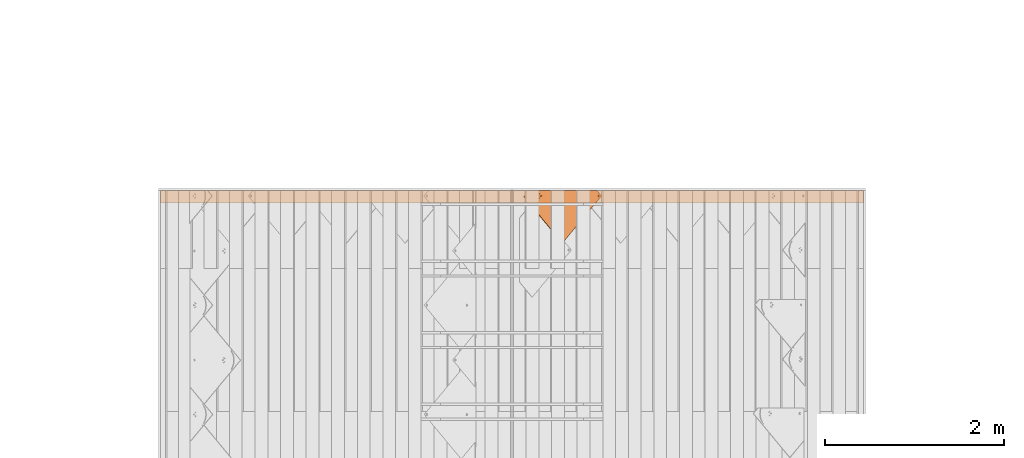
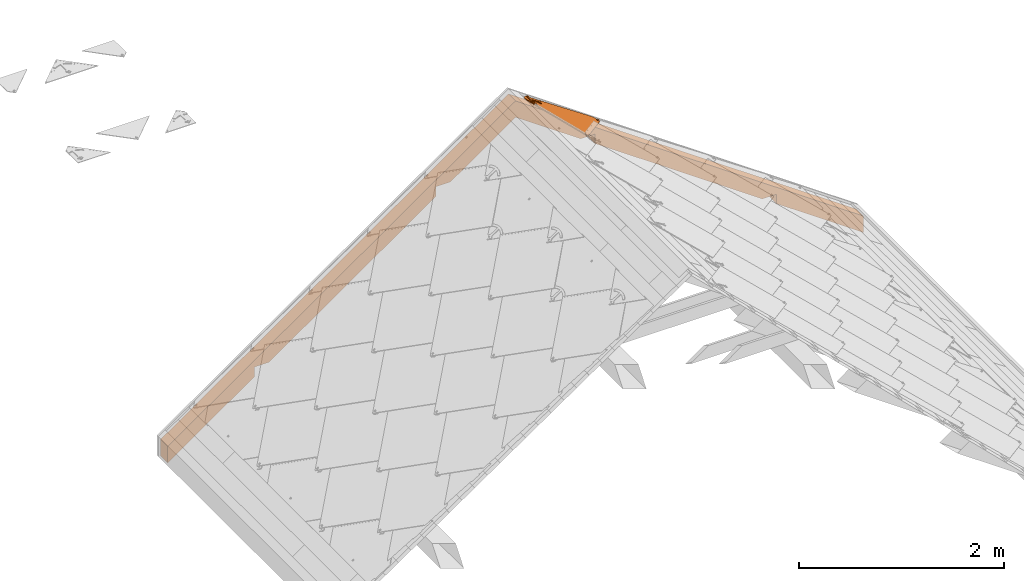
# One storey, part 86 of 133: 2 proxies, 1 element without a shape of its own.
"""IFC2X3 building model written with IfcOpenShell, lengths in millimetres."""

import ifcopenshell
import ifcopenshell.guid

model = None  # the IFC model being written
_history = None  # IfcOwnerHistory: only IFC2X3 demands one
_inside = {}  # id of a spatial element -> (the spatial element, [elements in it])
_under = {}  # id of a project, library or spatial element -> (it, [spatial elements below it])
_declared = {}  # id of a project -> (the project, [libraries it declares])
_typed = {}  # id of a type object -> (the type object, [elements of that type])
_made_of = {}  # id of a material, layer set ... -> (it, [elements and type objects made of it])


def new_model(schema):
    """Start an empty IFC model of exactly this schema.

    Asked for "IFC4X3", IfcOpenShell would pick the latest addendum, in which some entities
    have other attributes; the version numbers below select the first issue.
    IFC2X3 requires an IfcOwnerHistory on every rooted entity: one is made here for all.
    """
    global model, _history
    if schema == "IFC4X3":
        model = ifcopenshell.file(schema_version=(4, 3, 0, 0))
    else:
        model = ifcopenshell.file(schema=schema)
    _inside.clear()
    _under.clear()
    _declared.clear()
    _typed.clear()
    _made_of.clear()
    _history = None
    if model.schema == "IFC2X3":
        org = make("IfcOrganization", Name="unknown")
        user = make(
            "IfcPersonAndOrganization",
            ThePerson=make("IfcPerson", FamilyName="unknown"),
            TheOrganization=org,
        )
        app = make(
            "IfcApplication",
            ApplicationDeveloper=org,
            Version="unknown",
            ApplicationFullName="unknown",
            ApplicationIdentifier="unknown",
        )
        _history = make(
            "IfcOwnerHistory",
            OwningUser=user,
            OwningApplication=app,
            ChangeAction="ADDED",
            CreationDate=0,
        )
    return model


def make(cls, **values):
    """One entity of the class cls with the attributes given. An attribute that is None is left unset."""
    return model.create_entity(
        cls, **{name: value for name, value in values.items() if value is not None}
    )


def entity(cls, *values):
    """Any entity or typed value of the class cls, its attributes in the order of the schema. None: left unset."""
    e = model.create_entity(cls)
    for i, value in enumerate(values):
        if value is not None:
            e[i] = value
    return e


def rooted(cls, **values):
    """An entity with a GlobalId (a new one), such as an element, a storey or a relation."""
    return make(cls, GlobalId=ifcopenshell.guid.new(), OwnerHistory=_history, **values)


def si_unit(unit_type, name, prefix=None):
    """IfcSIUnit, for example si_unit("LENGTHUNIT", "METRE", prefix="MILLI")."""
    return make("IfcSIUnit", UnitType=unit_type, Prefix=prefix, Name=name)


def converted_unit(unit_type, name, factor, base, dimensions=None, offset=None):
    """IfcConversionBasedUnit, such as the inch: factor (a typed value) times the base unit."""
    return make(
        "IfcConversionBasedUnit"
        if offset is None
        else "IfcConversionBasedUnitWithOffset",
        ConversionOffset=offset,
        Dimensions=None
        if dimensions is None
        else entity("IfcDimensionalExponents", *dimensions),
        UnitType=unit_type,
        Name=name,
        ConversionFactor=make(
            "IfcMeasureWithUnit", ValueComponent=factor, UnitComponent=base
        ),
    )


def derived_unit(unit_type, elements):
    """IfcDerivedUnit: a product of units, each with its exponent."""
    return make(
        "IfcDerivedUnit",
        Elements=[
            make("IfcDerivedUnitElement", Unit=unit, Exponent=power)
            for unit, power in elements
        ],
        UnitType=unit_type,
    )


def assignment(units):
    """IfcUnitAssignment: the units of a project."""
    return None if units is None else make("IfcUnitAssignment", Units=units)


def point(xyz):
    """IfcCartesianPoint."""
    return None if xyz is None else make("IfcCartesianPoint", Coordinates=xyz)


def direction(xyz):
    """IfcDirection."""
    return None if xyz is None else make("IfcDirection", DirectionRatios=xyz)


def frame(location, z_axis=None, x_axis=None):
    """IfcAxis2Placement3D, a coordinate frame: its origin and axes. An axis left out is left unset."""
    return make(
        "IfcAxis2Placement3D",
        Location=point(location),
        Axis=direction(z_axis),
        RefDirection=direction(x_axis),
    )


def origin():
    """The frame at (0, 0, 0) with its axes left unset."""
    return frame((0.0, 0.0, 0.0))


def place(relative_to, where):
    """IfcLocalPlacement: puts the frame where relative to a parent placement (None: the world)."""
    return make(
        "IfcLocalPlacement", PlacementRelTo=relative_to, RelativePlacement=where
    )


def context(
    kind, dimensions, precision=None, world=None, true_north=None, identifier=None
):
    """IfcGeometricRepresentationContext, for example the 3D "Model" context."""
    return make(
        "IfcGeometricRepresentationContext",
        ContextIdentifier=identifier,
        ContextType=kind,
        CoordinateSpaceDimension=dimensions,
        Precision=precision,
        WorldCoordinateSystem=world,
        TrueNorth=true_north,
    )


def subcontext(parent, identifier, kind, view, scale=None):
    """IfcGeometricRepresentationSubContext, for example "Body" below "Model"."""
    return make(
        "IfcGeometricRepresentationSubContext",
        ContextIdentifier=identifier,
        ContextType=kind,
        ParentContext=parent,
        TargetScale=scale,
        TargetView=view,
    )


def project(units=None, contexts=None):
    """IfcProject with its units and contexts."""
    return rooted(
        "IfcProject",
        Name="project",
        RepresentationContexts=contexts,
        UnitsInContext=assignment(units),
    )


def spatial(cls, under=None, at=None, **own):
    """A site, building, storey or space (cls), placed at a placement, below another one or the project."""
    s = rooted(cls, ObjectPlacement=at, **own)
    if under is not None:
        _under.setdefault(under.id(), (under, []))[1].append(s)
    return s


def polyline(points):
    """IfcPolyline through the points."""
    return make("IfcPolyline", Points=[point(p) for p in points])


def outline(outer, holes=None, kind="AREA"):
    """IfcArbitraryClosedProfileDef: a profile drawn as a closed curve; with holes, ...WithVoids."""
    if holes is None:
        return make("IfcArbitraryClosedProfileDef", ProfileType=kind, OuterCurve=outer)
    return make(
        "IfcArbitraryProfileDefWithVoids",
        ProfileType=kind,
        OuterCurve=outer,
        InnerCurves=holes,
    )


def extrude(swept, where, along, depth):
    """IfcExtrudedAreaSolid: the profile swept, set in the frame where, extruded along a direction by depth."""
    return make(
        "IfcExtrudedAreaSolid",
        SweptArea=swept,
        Position=where,
        ExtrudedDirection=direction(along),
        Depth=depth,
    )


def faces_of(points, faces, orient=None, outer=None):
    """IfcFace entities. A face is a list of loops; a loop is a list of indices into points, from 0.

    orient and outer hold one flag for each loop. By default every Orientation is true, the
    first loop of a face is its IfcFaceOuterBound and the others are IfcFaceBound.
    """
    made = []
    for i, loops in enumerate(faces):
        bounds = []
        for j, loop in enumerate(loops):
            is_outer = j == 0 if outer is None else outer[i][j]
            bounds.append(
                make(
                    "IfcFaceOuterBound" if is_outer else "IfcFaceBound",
                    Bound=make("IfcPolyLoop", Polygon=[points[k] for k in loop]),
                    Orientation=True if orient is None else orient[i][j],
                )
            )
        made.append(make("IfcFace", Bounds=bounds))
    return made


def faceted_brep(points, faces, orient=None, outer=None, voids=None):
    """IfcFacetedBrep: a solid bounded by flat faces; with voids (closed shells), ...WithVoids."""
    shared = [point(p) for p in points]
    hull = make("IfcClosedShell", CfsFaces=faces_of(shared, faces, orient, outer))
    if voids is None:
        return make("IfcFacetedBrep", Outer=hull)
    return make(
        "IfcFacetedBrepWithVoids",
        Outer=hull,
        Voids=[
            make(cls, CfsFaces=faces_of(shared, fs, o, b)) for cls, fs, o, b in voids
        ],
    )


def shape(context_of_items, identifier, shape_type, items):
    """IfcShapeRepresentation: the items that make up one representation, for example the "Body"."""
    return make(
        "IfcShapeRepresentation",
        ContextOfItems=context_of_items,
        RepresentationIdentifier=identifier,
        RepresentationType=shape_type,
        Items=items,
    )


def source(mapping_origin, context_of_items, identifier, shape_type, items):
    """IfcRepresentationMap: a shape defined once, which mapped items show again and again."""
    return make(
        "IfcRepresentationMap",
        MappingOrigin=mapping_origin,
        MappedRepresentation=shape(context_of_items, identifier, shape_type, items),
    )


def transform(
    local_origin,
    x_axis=None,
    y_axis=None,
    z_axis=None,
    scale=None,
    scale2=None,
    scale3=None,
    uniform=True,
):
    """IfcCartesianTransformationOperator3D, or its non-uniform kind. x_axis, y_axis, z_axis: its Axis1, 2, 3."""
    if uniform:
        return make(
            "IfcCartesianTransformationOperator3D",
            Axis1=direction(x_axis),
            Axis2=direction(y_axis),
            LocalOrigin=point(local_origin),
            Scale=scale,
            Axis3=direction(z_axis),
        )
    return make(
        "IfcCartesianTransformationOperator3DnonUniform",
        Axis1=direction(x_axis),
        Axis2=direction(y_axis),
        LocalOrigin=point(local_origin),
        Scale=scale,
        Axis3=direction(z_axis),
        Scale2=scale2,
        Scale3=scale3,
    )


def mapped(mapping_source, mapping_target):
    """IfcMappedItem: shows the shape of a source again, moved by a transform."""
    return make(
        "IfcMappedItem", MappingSource=mapping_source, MappingTarget=mapping_target
    )


def material(Name=None, Category=None):
    """IfcMaterial."""
    return make("IfcMaterial", Name=Name, Category=Category)


def material_list(materials):
    """IfcMaterialList."""
    return make("IfcMaterialList", Materials=materials)


def made_of(thing, what):
    """Note that an element or type object is made of a material, layer set ...; save() writes the relation."""
    if what is not None:
        _made_of.setdefault(what.id(), (what, []))[1].append(thing)
    return thing


def type_object(cls, material=None, **own):
    """A type object (cls), such as IfcWallType, which elements share."""
    return made_of(rooted(cls, **own), material)


def type_shapes(of_type, sources):
    """Give a type object the sources (RepresentationMaps) that its elements show as mapped items."""
    of_type.RepresentationMaps = sources


def element(
    cls,
    number,
    at=None,
    inside=None,
    cuts=None,
    type_object=None,
    material=None,
    context=None,
    identifier="Body",
    shape_type=None,
    held_by="IfcProductDefinitionShape",
    body=None,
    shapes=None,
    **own,
):
    """One element of the class cls, such as IfcWall. Its Tag is "e" and its number.

    at: its placement. inside: the storey or other place that contains it. cuts: it is an
    opening in that element (IfcRelVoidsElement). A single representation is given by context,
    identifier, shape_type and body (its items); several are given by shapes. held_by: the class
    of the entity that holds the representations. save() writes the other relations.
    """
    e = rooted(cls, Tag="e%d" % number, ObjectPlacement=at, **own)
    if body is not None:
        shapes = [shape(context, identifier, shape_type, body)]
    if shapes is not None:
        e.Representation = make(held_by, Representations=shapes)
    if inside is not None:
        _inside.setdefault(inside.id(), (inside, []))[1].append(e)
    if cuts is not None:
        rooted(
            "IfcRelVoidsElement", RelatingBuildingElement=cuts, RelatedOpeningElement=e
        )
    if type_object is not None:
        _typed.setdefault(type_object.id(), (type_object, []))[1].append(e)
    return made_of(e, material)


def aggregate(whole, parts):
    """IfcRelAggregates: a whole, such as a stair, and the parts it consists of."""
    return rooted("IfcRelAggregates", RelatingObject=whole, RelatedObjects=parts)


def save(model, path):
    """Write the relations noted so far, then the file.

    IfcRelAggregates (storeys below a building ...), IfcRelContainedInSpatialStructure (elements
    in a storey), IfcRelDefinesByType, IfcRelAssociatesMaterial and IfcRelDeclares: one each for
    every whole, place, type object, material and project.
    """
    for whole, parts in _under.values():
        aggregate(whole, parts)
    for where, things in _inside.values():
        rooted(
            "IfcRelContainedInSpatialStructure",
            RelatedElements=things,
            RelatingStructure=where,
        )
    for kind, things in _typed.values():
        rooted("IfcRelDefinesByType", RelatedObjects=things, RelatingType=kind)
    for what, things in _made_of.values():
        rooted("IfcRelAssociatesMaterial", RelatedObjects=things, RelatingMaterial=what)
    for by, libraries in _declared.values():
        rooted("IfcRelDeclares", RelatingContext=by, RelatedDefinitions=libraries)
    model.write(path)


model = new_model("IFC2X3")

# Units and contexts
model_context = context("Model", 3, precision=0.01, world=origin(), true_north=direction((6.12303176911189e-17, 1.0)))
body_context = subcontext(model_context, "Body", "Model", "MODEL_VIEW")
ifc_project = project(units=[si_unit("LENGTHUNIT", "METRE", prefix="MILLI"), si_unit("AREAUNIT", "SQUARE_METRE"), si_unit("VOLUMEUNIT", "CUBIC_METRE"), converted_unit("PLANEANGLEUNIT", "DEGREE", entity("IfcRatioMeasure", 0.0174532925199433), si_unit("PLANEANGLEUNIT", "RADIAN"), dimensions=[0, 0, 0, 0, 0, 0, 0]), si_unit("MASSUNIT", "GRAM", prefix="KILO"), derived_unit("MASSDENSITYUNIT", [(si_unit("MASSUNIT", "GRAM", prefix="KILO"), 1), (si_unit("LENGTHUNIT", "METRE"), -3)]), si_unit("TIMEUNIT", "SECOND"), si_unit("FREQUENCYUNIT", "HERTZ"), si_unit("THERMODYNAMICTEMPERATUREUNIT", "DEGREE_CELSIUS"), derived_unit("THERMALTRANSMITTANCEUNIT", [(si_unit("MASSUNIT", "GRAM", prefix="KILO"), 1), (si_unit("THERMODYNAMICTEMPERATUREUNIT", "KELVIN"), -1), (si_unit("TIMEUNIT", "SECOND"), -3)]), derived_unit("VOLUMETRICFLOWRATEUNIT", [(si_unit("LENGTHUNIT", "METRE"), 3), (si_unit("TIMEUNIT", "SECOND"), -1)]), si_unit("ELECTRICCURRENTUNIT", "AMPERE"), si_unit("ELECTRICVOLTAGEUNIT", "VOLT"), si_unit("POWERUNIT", "WATT"), si_unit("FORCEUNIT", "NEWTON", prefix="KILO"), si_unit("ILLUMINANCEUNIT", "LUX"), si_unit("LUMINOUSFLUXUNIT", "LUMEN"), si_unit("LUMINOUSINTENSITYUNIT", "CANDELA"), derived_unit("USERDEFINED", [(si_unit("MASSUNIT", "GRAM", prefix="KILO"), -1), (si_unit("LENGTHUNIT", "METRE"), -2), (si_unit("TIMEUNIT", "SECOND"), 3), (si_unit("LUMINOUSFLUXUNIT", "LUMEN"), 1)]), derived_unit("LINEARVELOCITYUNIT", [(si_unit("LENGTHUNIT", "METRE"), 1), (si_unit("TIMEUNIT", "SECOND"), -1)]), si_unit("PRESSUREUNIT", "PASCAL"), derived_unit("USERDEFINED", [(si_unit("LENGTHUNIT", "METRE"), -2), (si_unit("MASSUNIT", "GRAM", prefix="KILO"), 1), (si_unit("TIMEUNIT", "SECOND"), -2)])], contexts=[model_context])

# Site, building, storey
site_placement = place(None, origin())
site = spatial("IfcSite", under=ifc_project, at=site_placement, Name="Default", CompositionType="ELEMENT")
building_placement = place(site_placement, origin())
building = spatial("IfcBuilding", under=site, at=building_placement, CompositionType="ELEMENT")
storey_placement = place(building_placement, origin())
storey = spatial("IfcBuildingStorey", under=building, at=storey_placement, Name="Level 1", CompositionType="ELEMENT", Elevation=0.0)

# Assembly, proxy
assembly_placement = place(storey_placement, origin())
assembly = element("IfcElementAssembly", 1, at=assembly_placement, inside=storey, Name="Structural Framing Assembly:Roof Construction Assembly", ObjectType="Structural Framing Assembly:Roof Construction Assembly", AssemblyPlace="NOTDEFINED", PredefinedType="USERDEFINED")
ifc_material_1 = material(Name="Wood - Generic - Wood For Showcase")
building_element_proxy_type_1 = type_object("IfcBuildingElementProxyType", Name="Structural Framing 1", PredefinedType="NOTDEFINED", material=ifc_material_1)
shared_shape_1 = source(origin(), body_context, "Body", "SweptSolid", [
    extrude(outline(polyline([(-929.245683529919, -1327.10037070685), (3863.25950492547, -1327.10037070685), (3975.29271103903, -1167.10037070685), (2778.93361405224, -1167.10037070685), (2713.54351952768, -1260.48710386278), (2580.17344271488, -1167.10037070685), (278.93361405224, -1167.10037070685), (213.543519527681, -1260.48710386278), (80.1734427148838, -1167.10037070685), (-817.212477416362, -1167.10037070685), (-1124.13653843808, -323.833443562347), (-1257.50661525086, -230.446710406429), (-1192.11652072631, -137.059977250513), (-1979.18689675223, 2025.39810840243), (-2112.55697356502, 2118.78484155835), (-2047.16687904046, 2212.17157471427), (-2456.34578886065, 3336.38138996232), (-2568.37899497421, 3176.38138996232), (-929.245683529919, -1327.10037070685)])), frame((1206.77890726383, 3785.55080214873, 1179.90959070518), z_axis=(0.0, 1.0, 0.0), x_axis=(0.819152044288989, 0.0, -0.573576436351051)), (0.0, 0.0, 1.0), 140.0),
])
type_shapes(building_element_proxy_type_1, [shared_shape_1])
proxy_1_placement = place(assembly_placement, origin())
proxy_1 = element("IfcBuildingElementProxy", 2, at=proxy_1_placement, type_object=building_element_proxy_type_1, material=ifc_material_1, Name="Structural Framing 1:Structural Framing 1", ObjectType="Structural Framing 1:Structural Framing 1", context=body_context, shape_type="MappedRepresentation", body=[
    mapped(shared_shape_1, transform((0.0, 0.0, 0.0), scale=1.0)),
])
aggregate(assembly, [proxy_1])

# Proxy
ifc_material_2 = material(Name="Rubber - Sunstyle - Black")
ifc_material_3 = material(Name="Glass - Sunstyle - Tainted Black")
ifc_material_list_1 = material_list([ifc_material_2, ifc_material_3])
ifc_material_list_2 = material_list([ifc_material_2, ifc_material_3])
building_element_proxy_type_2 = type_object("IfcBuildingElementProxyType", Name="Shingle Right - Black", PredefinedType="NOTDEFINED", material=ifc_material_list_2)
shared_shape_2 = source(origin(), body_context, "Body", "Brep", [
    faceted_brep([(526.70519509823, 41.3127833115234, 3.87722628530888), (520.930992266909, 37.9795131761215, 3.9330502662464), (520.930992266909, 38.34782226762, 25.9249196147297), (526.70519509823, 41.6810924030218, 25.8690956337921), (520.930992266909, 31.3129729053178, 4.0446982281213), (520.930992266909, 31.6812819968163, 26.0365675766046), (526.70519509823, 27.979702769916, 4.1005222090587), (526.70519509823, 28.3480118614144, 26.092391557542), (532.47939792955, 31.3129729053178, 4.04469822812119), (532.47939792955, 31.6812819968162, 26.0365675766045), (532.47939792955, 37.9795131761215, 3.93305026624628), (532.47939792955, 38.3478222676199, 25.9249196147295), (518.101490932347, 26.4120542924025, 26.1248140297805), (526.70519509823, 22.8487830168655, 26.1844899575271), (514.537719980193, 35.0145521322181, 25.9807435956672), (518.101490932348, 43.6170499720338, 25.8366731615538), (526.70519509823, 47.1803212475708, 25.776997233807), (535.308899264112, 43.6170499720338, 25.8366731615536), (538.872670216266, 35.0145521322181, 25.9807435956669), (535.308899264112, 26.4120542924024, 26.1248140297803), (515.380950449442, 37.3096292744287, 28.2935855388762), (516.94872054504, 35.0855670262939, 30.2210682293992), (526.70519509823, 42.3986422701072, 30.8537686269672), (526.70519509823, 43.6391399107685, 30.2734219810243), (526.70519509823, 45.7966907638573, 29.2640469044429), (526.70519509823, 23.4048270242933, 27.4595479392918), (526.70519509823, 24.3484036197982, 29.6232523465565), (526.70519509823, 27.7977793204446, 31.0982967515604), (526.70519509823, 46.6672851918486, 27.0699596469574), (520.381949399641, 31.4479950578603, 31.0371647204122), (520.381949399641, 38.7484265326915, 30.9149006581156), (538.029439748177, 32.7982090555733, 28.3691406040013), (536.554075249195, 34.0111605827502, 30.1422000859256), (533.028440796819, 38.7484265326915, 30.9149006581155), (533.028440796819, 31.4479950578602, 31.0371647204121), (520.381949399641, 31.5820235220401, 39.0400528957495), (526.70519509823, 27.9318077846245, 39.1011849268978), (526.70519509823, 35.2322392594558, 38.9789208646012), (520.381949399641, 38.8824549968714, 38.9177888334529), (533.028440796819, 31.5820235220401, 39.0400528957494), (533.028440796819, 38.8824549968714, 38.9177888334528), (526.70519509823, 42.532670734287, 38.8566568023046), (526.70519509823, 34.6462430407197, 3.98887424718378)], [[[0, 1, 2, 3]], [[1, 4, 5, 2]], [[4, 6, 7, 5]], [[6, 8, 9, 7]], [[8, 10, 11, 9]], [[10, 0, 3, 11]], [[12, 7, 13]], [[7, 12, 5]], [[14, 5, 12]], [[5, 14, 2]], [[15, 2, 14]], [[3, 2, 15]], [[15, 16, 3]], [[16, 17, 3]], [[11, 3, 17]], [[11, 17, 18]], [[9, 11, 18]], [[18, 19, 9]], [[7, 9, 19]], [[19, 13, 7]], [[20, 14, 12]], [[21, 22, 23, 24]], [[24, 20, 21]], [[25, 20, 12]], [[26, 27, 21]], [[15, 14, 20]], [[12, 13, 25]], [[20, 28, 15]], [[28, 20, 24]], [[21, 27, 29]], [[21, 29, 30]], [[26, 21, 20]], [[20, 25, 26]], [[15, 28, 16]], [[21, 30, 22]], [[31, 18, 17]], [[28, 31, 17]], [[32, 27, 26]], [[26, 31, 32]], [[26, 25, 31]], [[25, 19, 31]], [[17, 16, 28]], [[31, 19, 18]], [[24, 31, 28]], [[33, 34, 32]], [[23, 22, 33]], [[24, 32, 31]], [[27, 32, 34]], [[32, 23, 33]], [[19, 25, 13]], [[32, 24, 23]], [[35, 36, 37]], [[37, 38, 35]], [[36, 39, 37]], [[40, 37, 39]], [[37, 40, 41]], [[37, 41, 38]], [[42, 6, 4]], [[4, 1, 42]], [[1, 0, 42]], [[42, 8, 6]], [[0, 10, 42]], [[8, 42, 10]], [[22, 30, 38, 41]], [[30, 29, 35, 38]], [[29, 27, 36, 35]], [[27, 34, 39, 36]], [[34, 33, 40, 39]], [[33, 22, 41, 40]]]),
    faceted_brep([(526.70519509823, 811.19100538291, 21.4210230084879), (526.70519509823, 815.690374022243, 21.3456697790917), (518.101490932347, 814.754276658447, 21.3613470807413), (535.308899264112, 814.754276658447, 21.3613470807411), (533.345423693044, 819.523574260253, 21.2814732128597), (538.872670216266, 823.356774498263, 21.2172766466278), (533.345423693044, 827.189974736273, 21.1530800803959), (535.308899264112, 831.959272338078, 21.0732062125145), (526.70519509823, 831.023174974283, 21.0888835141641), (526.70519509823, 835.522543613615, 21.0135302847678), (518.101490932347, 831.959272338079, 21.0732062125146), (520.064966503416, 827.189974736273, 21.1530800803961), (514.537719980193, 823.356774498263, 21.217276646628), (520.064966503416, 819.523574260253, 21.2814732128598), (520.064966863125, 826.922051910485, 5.15532344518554), (526.70519509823, 830.755251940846, 5.09112688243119), (520.064966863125, 819.255651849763, 5.2837165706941), (526.70519509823, 815.422451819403, 5.34791313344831), (533.345423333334, 819.255651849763, 5.28371657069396), (533.345423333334, 826.922051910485, 5.1553234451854), (518.101490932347, 814.486354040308, 5.36359044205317), (526.70519509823, 810.923082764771, 5.4232663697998), (514.537719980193, 823.088851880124, 5.21952000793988), (518.101490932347, 831.69134971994, 5.07544957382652), (526.70519509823, 835.254620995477, 5.01577364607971), (535.308899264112, 831.69134971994, 5.07544957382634), (538.872670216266, 823.088851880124, 5.21952000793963), (535.308899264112, 814.486354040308, 5.36359044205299)], [[[0, 1, 2]], [[1, 0, 3]], [[3, 4, 1]], [[4, 3, 5]], [[6, 4, 5]], [[5, 7, 6]], [[7, 8, 6]], [[8, 7, 9]], [[8, 9, 10]], [[10, 11, 8]], [[12, 11, 10]], [[2, 13, 12]], [[12, 13, 11]], [[13, 2, 1]], [[8, 11, 14, 15]], [[11, 13, 16, 14]], [[13, 1, 17, 16]], [[1, 4, 18, 17]], [[4, 6, 19, 18]], [[6, 8, 15, 19]], [[20, 17, 21]], [[17, 20, 16]], [[22, 16, 20]], [[14, 16, 22]], [[23, 14, 22]], [[15, 14, 23]], [[23, 24, 15]], [[24, 25, 15]], [[19, 15, 25]], [[19, 25, 26]], [[26, 18, 19]], [[26, 27, 18]], [[17, 18, 27]], [[27, 21, 17]], [[24, 23, 10, 9]], [[10, 23, 22, 12]], [[20, 21, 0, 2]], [[20, 2, 12, 22]], [[21, 27, 3, 0]], [[3, 27, 26, 5]], [[25, 24, 9, 7]], [[25, 7, 5, 26]]]),
    faceted_brep([(578.30986553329, 967.15023469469, 8.79467739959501), (586.794551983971, 975.634921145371, 8.65258001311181), (586.794551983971, 975.660038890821, 10.1523696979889), (578.30986553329, 967.17535244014, 10.294467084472), (517.891471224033, 1027.55168765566, 7.7831033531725), (8.48468645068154, 518.287740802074, 16.3120073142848), (0.0, 526.772427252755, 16.1699099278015), (517.891471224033, 1044.51868144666, 7.49894842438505), (517.891471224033, 1044.54379919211, 8.99873810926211), (0.0, 526.797544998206, 17.6696996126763), (8.4846864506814, 518.312858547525, 17.8117969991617), (517.891471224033, 1027.57680540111, 9.28289303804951)], [[[0, 1, 2, 3]], [[1, 0, 4, 5, 6, 7]], [[2, 1, 7, 8]], [[3, 2, 8, 9, 10, 11]], [[0, 3, 11, 4]], [[5, 10, 9, 6]], [[8, 7, 6, 9]], [[4, 11, 10, 5]]]),
    faceted_brep([(586.794551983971, 975.634921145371, 8.65258001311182), (517.891471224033, 1044.51868144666, 7.49894842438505), (523.812678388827, 834.561085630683, 11.0152157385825), (526.918506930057, 834.969918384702, 11.0083688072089), (530.024335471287, 834.561085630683, 11.0152157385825), (532.918506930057, 833.362448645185, 11.0352899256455), (535.403788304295, 831.455692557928, 11.0672233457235), (537.31081177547, 828.970759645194, 11.1088397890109), (538.509616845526, 826.076993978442, 11.1573031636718), (538.918506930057, 822.971600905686, 11.2093107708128), (538.509616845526, 819.86620783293, 11.2613183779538), (586.79455198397, 60.1087646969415, 23.9853651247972), (520.918506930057, 833.362448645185, 11.0352899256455), (518.433225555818, 831.455692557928, 11.0672233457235), (516.526202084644, 828.970759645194, 11.1088397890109), (515.327397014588, 826.076993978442, 11.1573031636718), (0.0, 526.772427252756, 16.1699099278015), (514.918506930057, 822.971600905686, 11.2093107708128), (515.327397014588, 819.86620783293, 11.2613183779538), (516.526202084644, 816.972442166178, 11.3097817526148), (518.433225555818, 814.487509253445, 11.3513981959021), (520.918506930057, 812.580753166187, 11.3833316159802), (523.812678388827, 811.382116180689, 11.4034058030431), (524.667140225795, 42.642731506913, 24.2778777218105), (522.737692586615, 41.8436401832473, 24.2912605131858), (521.080838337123, 40.572469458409, 24.3125494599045), (519.80948935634, 38.9158475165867, 24.3402937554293), (519.010285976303, 36.9866704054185, 24.37260267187), (518.737692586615, 34.9164083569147, 24.407274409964), (519.010285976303, 32.8461463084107, 24.441946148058), (526.794551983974, 0.125588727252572, 24.989934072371), (519.80948935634, 30.9169691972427, 24.4742550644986), (533.665895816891, 30.9169691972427, 24.4742550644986), (532.394546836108, 29.2603472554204, 24.5019993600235), (530.737692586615, 27.9891765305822, 24.5232883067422), (528.808244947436, 27.1900852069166, 24.5366710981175), (526.737692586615, 26.9175300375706, 24.5412357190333), (524.667140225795, 27.1900852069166, 24.5366710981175), (522.737692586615, 27.9891765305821, 24.5232883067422), (521.080838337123, 29.2603472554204, 24.5019993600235), (526.737692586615, 42.9152866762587, 24.2733131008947), (528.808244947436, 42.6427315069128, 24.2778777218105), (530.737692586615, 41.8436401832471, 24.2912605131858), (532.394546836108, 40.572469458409, 24.3125494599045), (533.665895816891, 38.9158475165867, 24.3402937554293), (534.465099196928, 36.9866704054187, 24.37260267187), (534.737692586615, 34.9164083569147, 24.407274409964), (534.465099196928, 32.8461463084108, 24.441946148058), (526.918506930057, 810.97328342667, 11.4102527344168), (537.31081177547, 816.972442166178, 11.3097817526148), (535.403788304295, 814.487509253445, 11.3513981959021), (532.918506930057, 812.580753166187, 11.3833316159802), (530.024335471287, 811.382116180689, 11.4034058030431), (0.0, 526.646838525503, 8.67096150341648), (519.80948935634, 38.790258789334, 16.8413453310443), (519.010285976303, 36.8610816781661, 16.8736542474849), (521.080838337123, 40.4468807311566, 16.8136010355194), (518.737692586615, 34.7908196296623, 16.9083259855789), (519.010285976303, 32.7205575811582, 16.9429977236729), (526.794551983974, 0.0, 17.4909856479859), (522.737692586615, 41.7180514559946, 16.7923120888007), (524.667140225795, 42.5171427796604, 16.7789292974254), (523.812678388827, 811.256527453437, 3.90445737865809), (520.918506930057, 812.455164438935, 3.88438319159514), (518.433225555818, 814.361920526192, 3.85244977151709), (516.526202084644, 816.846853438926, 3.81083332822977), (515.327397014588, 819.740619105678, 3.76236995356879), (514.918506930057, 822.846012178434, 3.71036234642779), (515.327397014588, 825.95140525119, 3.65835473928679), (517.891471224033, 1044.39309271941, 0.0), (516.526202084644, 828.845170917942, 3.60989136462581), (518.433225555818, 831.330103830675, 3.56827492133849), (520.918506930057, 833.236859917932, 3.53634150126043), (523.812678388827, 834.435496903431, 3.51626731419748), (586.794551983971, 975.509332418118, 1.15363158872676), (526.918506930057, 834.84432965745, 3.50942038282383), (530.024335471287, 834.435496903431, 3.51626731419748), (532.918506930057, 833.236859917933, 3.53634150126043), (535.403788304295, 831.330103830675, 3.56827492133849), (537.31081177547, 828.845170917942, 3.60989136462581), (538.509616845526, 825.95140525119, 3.65835473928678), (538.918506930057, 822.846012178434, 3.71036234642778), (538.509616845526, 819.740619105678, 3.76236995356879), (586.79455198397, 59.983175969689, 16.4864167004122), (526.737692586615, 42.7896979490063, 16.7743646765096), (528.808244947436, 42.5171427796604, 16.7789292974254), (530.737692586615, 41.7180514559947, 16.7923120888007), (532.394546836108, 40.4468807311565, 16.8136010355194), (533.665895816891, 30.7913804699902, 16.9753066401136), (534.465099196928, 32.7205575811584, 16.9429977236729), (534.737692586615, 34.7908196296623, 16.9083259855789), (534.465099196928, 36.8610816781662, 16.8736542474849), (533.665895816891, 38.7902587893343, 16.8413453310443), (526.918506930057, 810.847694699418, 3.91130431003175), (530.024335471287, 811.256527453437, 3.90445737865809), (532.918506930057, 812.455164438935, 3.88438319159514), (535.403788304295, 814.361920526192, 3.85244977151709), (537.31081177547, 816.846853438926, 3.81083332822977), (519.80948935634, 30.7913804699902, 16.9753066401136), (521.080838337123, 29.134758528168, 17.0030509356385), (522.737692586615, 27.8635878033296, 17.0243398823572), (524.667140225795, 27.0644964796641, 17.0377226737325), (526.737692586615, 26.7919413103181, 17.0422872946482), (528.808244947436, 27.0644964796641, 17.0377226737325), (530.737692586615, 27.8635878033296, 17.0243398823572), (532.394546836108, 29.1347585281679, 17.0030509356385)], [[[0, 1, 2]], [[0, 2, 3]], [[3, 4, 0]], [[4, 5, 0]], [[0, 5, 6]], [[6, 7, 0]], [[7, 8, 0]], [[8, 9, 0]], [[9, 10, 0]], [[0, 10, 11]], [[2, 1, 12]], [[13, 12, 1]], [[14, 13, 1]], [[14, 1, 15]], [[15, 1, 16]], [[16, 17, 15]], [[17, 16, 18]], [[19, 18, 16]], [[19, 16, 20]], [[21, 20, 16]], [[22, 21, 16]], [[23, 22, 16]], [[24, 23, 16]], [[16, 25, 24]], [[25, 16, 26]], [[26, 16, 27]], [[28, 27, 16]], [[28, 16, 29]], [[29, 16, 30]], [[30, 31, 29]], [[11, 32, 30]], [[30, 32, 33]], [[34, 30, 33]], [[34, 35, 30]], [[36, 30, 35]], [[30, 36, 37]], [[37, 38, 30]], [[38, 39, 30]], [[39, 31, 30]], [[23, 11, 22]], [[11, 23, 40]], [[11, 40, 41]], [[11, 41, 42]], [[42, 43, 11]], [[44, 11, 43]], [[44, 45, 11]], [[45, 46, 11]], [[47, 11, 46]], [[11, 47, 32]], [[22, 11, 48]], [[10, 49, 11]], [[49, 50, 11]], [[50, 51, 11]], [[51, 52, 11]], [[52, 48, 11]], [[53, 54, 55]], [[54, 53, 56]], [[53, 55, 57]], [[57, 58, 53]], [[53, 58, 59]], [[60, 56, 53]], [[61, 60, 53]], [[61, 53, 62]], [[62, 53, 63]], [[53, 64, 63]], [[64, 53, 65]], [[65, 53, 66]], [[66, 53, 67]], [[67, 53, 68]], [[53, 69, 68]], [[70, 68, 69]], [[71, 70, 69]], [[69, 72, 71]], [[73, 72, 69]], [[73, 69, 74]], [[75, 73, 74]], [[75, 74, 76]], [[77, 76, 74]], [[74, 78, 77]], [[79, 78, 74]], [[80, 79, 74]], [[80, 74, 81]], [[81, 74, 82]], [[82, 74, 83]], [[84, 61, 83]], [[83, 85, 84]], [[86, 85, 83]], [[83, 87, 86]], [[59, 88, 83]], [[83, 88, 89]], [[90, 83, 89]], [[90, 91, 83]], [[91, 92, 83]], [[87, 83, 92]], [[62, 83, 61]], [[93, 83, 62]], [[83, 93, 94]], [[94, 95, 83]], [[83, 95, 96]], [[96, 97, 83]], [[97, 82, 83]], [[59, 58, 98]], [[99, 59, 98]], [[99, 100, 59]], [[100, 101, 59]], [[102, 59, 101]], [[59, 102, 103]], [[59, 103, 104]], [[104, 105, 59]], [[105, 88, 59]], [[16, 1, 69, 53]], [[30, 16, 53, 59]], [[11, 30, 59, 83]], [[1, 0, 74, 69]], [[28, 57, 55, 27]], [[27, 55, 54, 26]], [[24, 25, 56, 60]], [[56, 25, 26, 54]], [[23, 24, 60, 61]], [[23, 61, 84, 40]], [[40, 84, 85, 41]], [[41, 85, 86, 42]], [[44, 43, 87, 92]], [[87, 43, 42, 86]], [[45, 44, 92, 91]], [[45, 91, 90, 46]], [[46, 90, 89, 47]], [[47, 89, 88, 32]], [[34, 33, 105, 104]], [[105, 33, 32, 88]], [[35, 34, 104, 103]], [[35, 103, 102, 36]], [[36, 102, 101, 37]], [[37, 101, 100, 38]], [[31, 39, 99, 98]], [[39, 38, 100, 99]], [[58, 29, 31, 98]], [[29, 58, 57, 28]], [[17, 67, 68, 15]], [[15, 68, 70, 14]], [[12, 13, 71, 72]], [[71, 13, 14, 70]], [[2, 12, 72, 73]], [[2, 73, 75, 3]], [[3, 75, 76, 4]], [[4, 76, 77, 5]], [[7, 6, 78, 79]], [[78, 6, 5, 77]], [[8, 7, 79, 80]], [[8, 80, 81, 9]], [[9, 81, 82, 10]], [[10, 82, 97, 49]], [[51, 50, 96, 95]], [[96, 50, 49, 97]], [[52, 51, 95, 94]], [[52, 94, 93, 48]], [[48, 93, 62, 22]], [[22, 62, 63, 21]], [[19, 20, 64, 65]], [[64, 20, 21, 63]], [[18, 19, 65, 66]], [[18, 66, 67, 17]], [[0, 11, 83, 74]]]),
    faceted_brep([(503.195324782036, 841.557074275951, 20.8994526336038), (517.914693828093, 832.008099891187, 21.0593741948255), (507.695869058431, 846.190079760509, 20.8218613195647), (516.007670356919, 829.523166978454, 21.1009906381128), (499.815755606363, 836.052923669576, 20.9916334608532), (514.808865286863, 826.629401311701, 21.1494540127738), (497.720422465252, 829.943523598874, 21.0939507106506), (514.399975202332, 823.524008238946, 21.2014616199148), (497.010547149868, 823.524008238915, 21.2014616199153), (514.808865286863, 820.41861516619, 21.2534692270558), (516.007670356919, 817.524849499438, 21.3019326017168), (517.914693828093, 815.039916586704, 21.3435490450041), (526.399975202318, 794.138700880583, 21.6935924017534), (520.399975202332, 813.133160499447, 21.3754824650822), (523.294146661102, 811.934523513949, 21.3955566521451), (526.399975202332, 811.52569075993, 21.4024035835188), (529.505803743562, 811.934523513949, 21.3955566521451), (532.399975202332, 813.133160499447, 21.3754824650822), (534.885256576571, 815.039916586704, 21.3435490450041), (555.789403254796, 823.524008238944, 21.2014616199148), (536.792280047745, 817.524849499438, 21.3019326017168), (537.991085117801, 820.41861516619, 21.2534692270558), (538.399975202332, 823.524008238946, 21.2014616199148), (555.079527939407, 829.943523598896, 21.0939507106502), (537.991085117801, 826.629401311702, 21.1494540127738), (552.984194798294, 836.052923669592, 20.9916334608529), (536.792280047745, 829.523166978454, 21.1009906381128), (549.604625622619, 841.557074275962, 20.8994526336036), (534.88525657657, 832.008099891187, 21.0593741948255), (545.104081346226, 846.190079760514, 20.8218613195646), (532.399975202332, 833.914855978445, 21.0274407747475), (539.69997520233, 849.728127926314, 20.7626078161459), (529.505803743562, 835.113492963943, 21.0073665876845), (526.399975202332, 835.522325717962, 21.0005196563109), (513.09997520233, 849.728127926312, 20.762607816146), (513.099975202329, 947.789128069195, 19.1203300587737), (539.699975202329, 948.373752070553, 19.1105390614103), (522.252457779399, 973.425526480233, 18.6909841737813), (556.520926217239, 971.308509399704, 18.7264389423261), (565.239246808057, 944.126992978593, 19.1816617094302), (589.568348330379, 961.999667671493, 18.8823388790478), (589.568348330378, 935.274464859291, 19.3299195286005), (488.310294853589, 968.25512753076, 18.7775754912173), (488.729131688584, 942.717602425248, 19.2052654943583), (456.227055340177, 956.030775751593, 18.9823029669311), (465.633151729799, 933.432284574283, 19.3607714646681), (444.534595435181, 920.223666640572, 19.5819829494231), (427.451419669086, 937.304447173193, 19.2959223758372), (520.399975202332, 833.914855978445, 21.0274407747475), (523.294146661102, 835.113492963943, 21.0073665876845), (526.399975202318, 793.971249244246, 11.6949945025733), (526.399975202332, 811.358239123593, 11.4038056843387), (529.505803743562, 811.767071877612, 11.396958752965), (523.294146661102, 811.767071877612, 11.396958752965), (532.399975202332, 812.96570886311, 11.3768845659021), (534.885256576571, 814.872464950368, 11.344951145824), (555.789403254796, 823.356556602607, 11.2028637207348), (520.399975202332, 812.96570886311, 11.3768845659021), (517.914693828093, 814.872464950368, 11.344951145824), (497.010547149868, 823.356556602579, 11.2028637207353), (516.007670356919, 817.357397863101, 11.3033347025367), (514.808865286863, 820.251163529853, 11.2548713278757), (514.399975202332, 823.356556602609, 11.2028637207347), (497.720422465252, 829.776071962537, 11.0953528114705), (514.808865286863, 826.461949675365, 11.1508561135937), (499.815755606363, 835.885472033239, 10.9930355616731), (516.007670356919, 829.355715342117, 11.1023927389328), (503.195324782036, 841.389622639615, 10.9008547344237), (517.914693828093, 831.84064825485, 11.0607762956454), (507.695869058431, 846.022628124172, 10.8232634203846), (520.399975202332, 833.747404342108, 11.0288428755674), (513.09997520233, 849.560676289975, 10.7640099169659), (523.294146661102, 834.946041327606, 11.0087686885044), (526.399975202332, 835.354874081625, 11.0019217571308), (539.69997520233, 849.560676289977, 10.7640099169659), (513.099975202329, 947.621676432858, 9.12173215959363), (539.69997520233, 948.206300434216, 9.11194116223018), (522.252457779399, 973.258074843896, 8.69238627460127), (488.310294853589, 968.087675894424, 8.77897759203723), (488.729131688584, 942.550150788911, 9.20666759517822), (456.227055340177, 955.863324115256, 8.98370506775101), (465.633151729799, 933.264832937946, 9.36217356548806), (444.533467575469, 920.055518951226, 9.58339670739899), (428.044288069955, 936.544210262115, 9.30725215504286), (421.793762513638, 931.184466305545, 9.39701453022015), (415.826529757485, 925.515365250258, 9.49195786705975), (418.207622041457, 893.733364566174, 10.0242272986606), (401.122816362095, 910.815774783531, 9.73813943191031), (427.451419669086, 937.136995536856, 9.29732447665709), (556.520926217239, 971.141057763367, 8.727841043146), (565.239246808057, 943.959541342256, 9.18306381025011), (589.568348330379, 961.832216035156, 8.88374097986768), (589.568348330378, 935.107013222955, 9.33132162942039), (529.505803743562, 834.946041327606, 11.0087686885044), (532.399975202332, 833.747404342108, 11.0288428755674), (545.104081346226, 846.022628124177, 10.8232634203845), (534.88525657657, 831.84064825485, 11.0607762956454), (549.604625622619, 841.389622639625, 10.9008547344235), (536.792280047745, 829.355715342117, 11.1023927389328), (552.984194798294, 835.885472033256, 10.9930355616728), (537.991085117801, 826.461949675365, 11.1508561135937), (555.079527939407, 829.77607196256, 11.0953528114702), (538.399975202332, 823.356556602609, 11.2028637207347), (537.991085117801, 820.251163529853, 11.2548713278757), (536.792280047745, 817.357397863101, 11.3033347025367), (415.826529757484, 925.557228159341, 11.9916073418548), (401.122816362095, 910.857637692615, 12.2377889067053), (418.207622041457, 893.775227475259, 12.5238767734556), (444.534595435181, 920.09807791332, 12.083034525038), (428.042008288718, 936.584216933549, 11.8069327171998), (421.793762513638, 931.226329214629, 11.8966640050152)], [[[0, 1, 2]], [[3, 1, 0]], [[4, 3, 0]], [[5, 3, 4]], [[4, 6, 5]], [[6, 7, 5]], [[7, 6, 8]], [[9, 7, 8]], [[10, 9, 8]], [[10, 8, 11]], [[8, 12, 11]], [[13, 11, 12]], [[13, 12, 14]], [[12, 15, 14]], [[15, 12, 16]], [[16, 12, 17]], [[18, 17, 12]], [[18, 12, 19]], [[19, 20, 18]], [[21, 20, 19]], [[22, 21, 19]], [[19, 23, 22]], [[24, 22, 23]], [[23, 25, 24]], [[25, 26, 24]], [[26, 25, 27]], [[28, 26, 27]], [[27, 29, 28]], [[30, 28, 29]], [[29, 31, 30]], [[30, 31, 32]], [[32, 31, 33]], [[31, 34, 33]], [[35, 34, 31]], [[35, 31, 36]], [[36, 37, 35]], [[36, 38, 37]], [[39, 38, 36]], [[38, 39, 40]], [[41, 40, 39]], [[37, 42, 35]], [[35, 42, 43]], [[43, 42, 44]], [[44, 45, 43]], [[44, 46, 45]], [[46, 44, 47]], [[48, 34, 2]], [[48, 49, 34]], [[34, 49, 33]], [[48, 2, 1]], [[50, 51, 52]], [[51, 50, 53]], [[50, 52, 54]], [[54, 55, 50]], [[50, 55, 56]], [[57, 53, 50]], [[58, 57, 50]], [[58, 50, 59]], [[59, 60, 58]], [[60, 59, 61]], [[61, 59, 62]], [[63, 62, 59]], [[64, 62, 63]], [[63, 65, 64]], [[64, 65, 66]], [[65, 67, 66]], [[68, 66, 67]], [[69, 68, 67]], [[69, 70, 68]], [[70, 69, 71]], [[71, 72, 70]], [[71, 73, 72]], [[74, 73, 71]], [[71, 75, 74]], [[75, 76, 74]], [[76, 75, 77]], [[77, 75, 78]], [[79, 78, 75]], [[80, 78, 79]], [[79, 81, 80]], [[81, 82, 80]], [[82, 83, 80]], [[84, 83, 82]], [[84, 82, 85]], [[82, 86, 85]], [[86, 87, 85]], [[83, 88, 80]], [[76, 77, 89]], [[89, 90, 76]], [[90, 89, 91]], [[91, 92, 90]], [[93, 73, 74]], [[74, 94, 93]], [[94, 74, 95]], [[95, 96, 94]], [[95, 97, 96]], [[96, 97, 98]], [[99, 98, 97]], [[99, 100, 98]], [[101, 100, 99]], [[102, 100, 101]], [[56, 102, 101]], [[103, 102, 56]], [[56, 55, 104]], [[103, 56, 104]], [[34, 35, 75, 71]], [[2, 34, 71, 69]], [[0, 2, 69, 67]], [[67, 65, 4, 0]], [[6, 4, 65, 63]], [[8, 6, 63, 59]], [[12, 8, 59, 50]], [[19, 12, 50, 56]], [[23, 19, 56, 101]], [[25, 23, 101, 99]], [[99, 97, 27, 25]], [[29, 27, 97, 95]], [[31, 29, 95, 74]], [[36, 31, 74, 76]], [[38, 40, 91, 89]], [[37, 38, 89, 77]], [[77, 78, 42, 37]], [[44, 42, 78, 80]], [[47, 44, 80, 88]], [[7, 62, 64, 5]], [[5, 64, 66, 3]], [[48, 1, 68, 70]], [[66, 68, 1, 3]], [[49, 48, 70, 72]], [[73, 33, 49, 72]], [[32, 93, 94, 30]], [[30, 94, 96, 28]], [[24, 26, 98, 100]], [[96, 98, 26, 28]], [[22, 24, 100, 102]], [[32, 33, 73, 93]], [[22, 102, 103, 21]], [[21, 103, 104, 20]], [[17, 18, 55, 54]], [[104, 55, 18, 20]], [[16, 17, 54, 52]], [[51, 15, 16, 52]], [[14, 53, 57, 13]], [[13, 57, 58, 11]], [[9, 10, 60, 61]], [[58, 60, 10, 11]], [[7, 9, 61, 62]], [[14, 15, 51, 53]], [[105, 106, 107, 108, 109, 110]], [[107, 106, 87, 86]], [[108, 107, 82]], [[86, 82, 107]], [[109, 83, 110]], [[110, 83, 84]], [[84, 85, 105, 110]], [[106, 105, 85, 87]], [[46, 47, 109]], [[109, 47, 88]], [[46, 109, 108]], [[83, 109, 88]], [[108, 81, 45, 46]], [[108, 82, 81]], [[79, 75, 35, 43]], [[81, 79, 43, 45]], [[76, 90, 39, 36]], [[92, 41, 39, 90]], [[40, 41, 92, 91]]]),
])
type_shapes(building_element_proxy_type_2, [shared_shape_2])
proxy_2_placement = place(storey_placement, frame((2192.26758883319, 3338.53801038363, 2140.63041528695), z_axis=(0.573576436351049, 0.0, 0.81915204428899), x_axis=(0.0, 1.0, 0.0)))
element("IfcBuildingElementProxy", 3, at=proxy_2_placement, inside=storey, type_object=building_element_proxy_type_2, material=ifc_material_list_1, Name="Roofing_Panels_SunStyle_Tile_Shingle-Right:Shingle Right - Black", ObjectType="Roofing_Panels_SunStyle_Tile_Shingle-Right:Shingle Right - Black", context=body_context, shape_type="MappedRepresentation", body=[
    mapped(shared_shape_2, transform((0.0, 0.0, 0.0), scale=1.0)),
])

save(model, "model.ifc")
